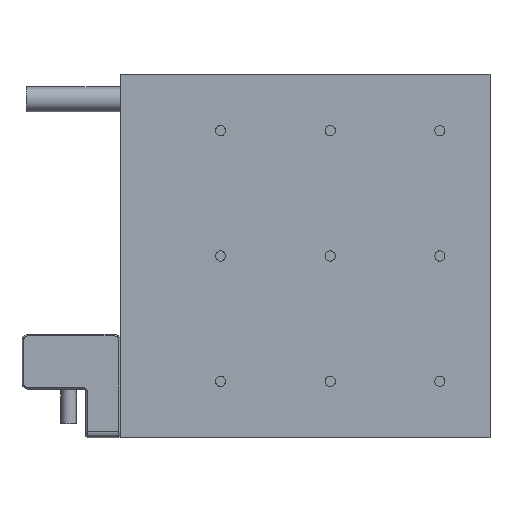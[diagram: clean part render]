
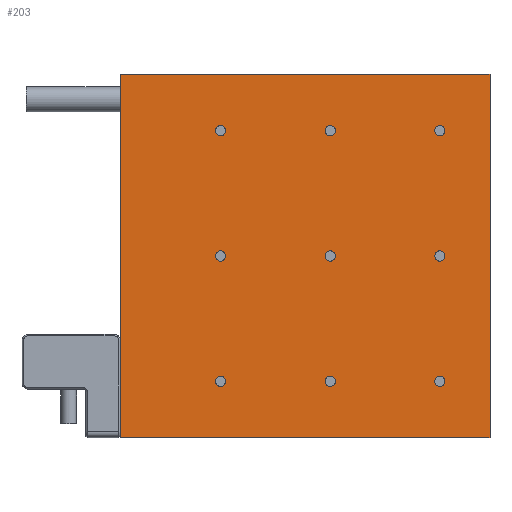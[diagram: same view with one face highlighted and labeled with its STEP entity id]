
A CAD part, front view. The second image highlights one B-rep face of the part: STEP entity #203.
In plain terms, the highlighted planar face has unit normal (0, -1, 0).
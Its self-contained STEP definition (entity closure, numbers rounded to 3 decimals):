
#203 = ADVANCED_FACE( '', ( #451, #452, #453, #454, #455, #456, #457, #458, #459, #460 ), #461, .T. );
#451 = FACE_BOUND( '', #748, .T. );
#452 = FACE_BOUND( '', #749, .T. );
#453 = FACE_BOUND( '', #750, .T. );
#454 = FACE_BOUND( '', #751, .T. );
#455 = FACE_BOUND( '', #752, .T. );
#456 = FACE_BOUND( '', #753, .T. );
#457 = FACE_BOUND( '', #754, .T. );
#458 = FACE_BOUND( '', #755, .T. );
#459 = FACE_BOUND( '', #756, .T. );
#460 = FACE_OUTER_BOUND( '', #757, .T. );
#461 = PLANE( '', #758 );
#748 = EDGE_LOOP( '', ( #1221 ) );
#749 = EDGE_LOOP( '', ( #1222 ) );
#750 = EDGE_LOOP( '', ( #1223 ) );
#751 = EDGE_LOOP( '', ( #1224 ) );
#752 = EDGE_LOOP( '', ( #1225 ) );
#753 = EDGE_LOOP( '', ( #1226 ) );
#754 = EDGE_LOOP( '', ( #1227 ) );
#755 = EDGE_LOOP( '', ( #1228 ) );
#756 = EDGE_LOOP( '', ( #1229 ) );
#757 = EDGE_LOOP( '', ( #1230, #1231, #1232, #1233 ) );
#758 = AXIS2_PLACEMENT_3D( '', #1234, #1235, #1236 );
#1221 = ORIENTED_EDGE( '', *, *, #1558, .T. );
#1222 = ORIENTED_EDGE( '', *, *, #1636, .T. );
#1223 = ORIENTED_EDGE( '', *, *, #1637, .T. );
#1224 = ORIENTED_EDGE( '', *, *, #1522, .T. );
#1225 = ORIENTED_EDGE( '', *, *, #1638, .T. );
#1226 = ORIENTED_EDGE( '', *, *, #1639, .T. );
#1227 = ORIENTED_EDGE( '', *, *, #1604, .T. );
#1228 = ORIENTED_EDGE( '', *, *, #1640, .T. );
#1229 = ORIENTED_EDGE( '', *, *, #1619, .T. );
#1230 = ORIENTED_EDGE( '', *, *, #1641, .T. );
#1231 = ORIENTED_EDGE( '', *, *, #1516, .T. );
#1232 = ORIENTED_EDGE( '', *, *, #1642, .T. );
#1233 = ORIENTED_EDGE( '', *, *, #1643, .T. );
#1234 = CARTESIAN_POINT( '', ( 0., 0., 0. ) );
#1235 = DIRECTION( '', ( 0., -1., 0. ) );
#1236 = DIRECTION( '', ( 0., 0., -1. ) );
#1516 = EDGE_CURVE( '', #1755, #1756, #1757, .T. );
#1522 = EDGE_CURVE( '', #1766, #1766, #1767, .T. );
#1558 = EDGE_CURVE( '', #1827, #1827, #1828, .T. );
#1604 = EDGE_CURVE( '', #1890, #1890, #1891, .T. );
#1619 = EDGE_CURVE( '', #1913, #1913, #1914, .T. );
#1636 = EDGE_CURVE( '', #1936, #1936, #1937, .T. );
#1637 = EDGE_CURVE( '', #1938, #1938, #1939, .T. );
#1638 = EDGE_CURVE( '', #1940, #1940, #1941, .T. );
#1639 = EDGE_CURVE( '', #1942, #1942, #1943, .T. );
#1640 = EDGE_CURVE( '', #1944, #1944, #1945, .T. );
#1641 = EDGE_CURVE( '', #1946, #1755, #1947, .T. );
#1642 = EDGE_CURVE( '', #1756, #1948, #1949, .T. );
#1643 = EDGE_CURVE( '', #1948, #1946, #1950, .T. );
#1755 = VERTEX_POINT( '', #2085 );
#1756 = VERTEX_POINT( '', #2086 );
#1757 = LINE( '', #2087, #2088 );
#1766 = VERTEX_POINT( '', #2100 );
#1767 = CIRCLE( '', #2101, 1.621 );
#1827 = VERTEX_POINT( '', #2173 );
#1828 = CIRCLE( '', #2174, 1.621 );
#1890 = VERTEX_POINT( '', #2248 );
#1891 = CIRCLE( '', #2249, 1.621 );
#1913 = VERTEX_POINT( '', #2276 );
#1914 = CIRCLE( '', #2277, 1.621 );
#1936 = VERTEX_POINT( '', #2305 );
#1937 = CIRCLE( '', #2306, 1.621 );
#1938 = VERTEX_POINT( '', #2307 );
#1939 = CIRCLE( '', #2308, 1.621 );
#1940 = VERTEX_POINT( '', #2309 );
#1941 = CIRCLE( '', #2310, 1.621 );
#1942 = VERTEX_POINT( '', #2311 );
#1943 = CIRCLE( '', #2312, 1.621 );
#1944 = VERTEX_POINT( '', #2313 );
#1945 = CIRCLE( '', #2314, 1.621 );
#1946 = VERTEX_POINT( '', #2315 );
#1947 = LINE( '', #2316, #2317 );
#1948 = VERTEX_POINT( '', #2318 );
#1949 = LINE( '', #2319, #2320 );
#1950 = LINE( '', #2321, #2322 );
#2085 = CARTESIAN_POINT( '', ( 59., 0., -58. ) );
#2086 = CARTESIAN_POINT( '', ( 59., 0., 58. ) );
#2087 = CARTESIAN_POINT( '', ( 59., 0., -71.18 ) );
#2088 = VECTOR( '', #2438, 1000. );
#2100 = CARTESIAN_POINT( '', ( 8., 0., -41.621 ) );
#2101 = AXIS2_PLACEMENT_3D( '', #2445, #2446, #2447 );
#2173 = CARTESIAN_POINT( '', ( 43., 0., -41.621 ) );
#2174 = AXIS2_PLACEMENT_3D( '', #2499, #2500, #2501 );
#2248 = CARTESIAN_POINT( '', ( -27., 0., -41.621 ) );
#2249 = AXIS2_PLACEMENT_3D( '', #2562, #2563, #2564 );
#2276 = CARTESIAN_POINT( '', ( -27., 0., 38.379 ) );
#2277 = AXIS2_PLACEMENT_3D( '', #2582, #2583, #2584 );
#2305 = CARTESIAN_POINT( '', ( 43., 0., -1.621 ) );
#2306 = AXIS2_PLACEMENT_3D( '', #2603, #2604, #2605 );
#2307 = CARTESIAN_POINT( '', ( 43., 0., 38.379 ) );
#2308 = AXIS2_PLACEMENT_3D( '', #2606, #2607, #2608 );
#2309 = CARTESIAN_POINT( '', ( 8., 0., -1.621 ) );
#2310 = AXIS2_PLACEMENT_3D( '', #2609, #2610, #2611 );
#2311 = CARTESIAN_POINT( '', ( 8., 0., 38.379 ) );
#2312 = AXIS2_PLACEMENT_3D( '', #2612, #2613, #2614 );
#2313 = CARTESIAN_POINT( '', ( -27., 0., -1.621 ) );
#2314 = AXIS2_PLACEMENT_3D( '', #2615, #2616, #2617 );
#2315 = CARTESIAN_POINT( '', ( -59., 0., -58. ) );
#2316 = CARTESIAN_POINT( '', ( -59., 0., -58. ) );
#2317 = VECTOR( '', #2618, 1000. );
#2318 = CARTESIAN_POINT( '', ( -59., 0., 58. ) );
#2319 = CARTESIAN_POINT( '', ( 59., 0., 58. ) );
#2320 = VECTOR( '', #2619, 1000. );
#2321 = CARTESIAN_POINT( '', ( -59., 0., 58. ) );
#2322 = VECTOR( '', #2620, 1000. );
#2438 = DIRECTION( '', ( 0., 0., 1. ) );
#2445 = CARTESIAN_POINT( '', ( 8., 0., -40. ) );
#2446 = DIRECTION( '', ( 0., 1., 0. ) );
#2447 = DIRECTION( '', ( 0., 0., -1. ) );
#2499 = CARTESIAN_POINT( '', ( 43., 0., -40. ) );
#2500 = DIRECTION( '', ( 0., 1., 0. ) );
#2501 = DIRECTION( '', ( 0., 0., -1. ) );
#2562 = CARTESIAN_POINT( '', ( -27., 0., -40. ) );
#2563 = DIRECTION( '', ( 0., 1., 0. ) );
#2564 = DIRECTION( '', ( 0., 0., -1. ) );
#2582 = CARTESIAN_POINT( '', ( -27., 0., 40. ) );
#2583 = DIRECTION( '', ( 0., 1., 0. ) );
#2584 = DIRECTION( '', ( 0., 0., -1. ) );
#2603 = CARTESIAN_POINT( '', ( 43., 0., 0. ) );
#2604 = DIRECTION( '', ( 0., 1., 0. ) );
#2605 = DIRECTION( '', ( 0., 0., -1. ) );
#2606 = CARTESIAN_POINT( '', ( 43., 0., 40. ) );
#2607 = DIRECTION( '', ( 0., 1., 0. ) );
#2608 = DIRECTION( '', ( 0., 0., -1. ) );
#2609 = CARTESIAN_POINT( '', ( 8., 0., 0. ) );
#2610 = DIRECTION( '', ( 0., 1., 0. ) );
#2611 = DIRECTION( '', ( 0., 0., -1. ) );
#2612 = CARTESIAN_POINT( '', ( 8., 0., 40. ) );
#2613 = DIRECTION( '', ( 0., 1., 0. ) );
#2614 = DIRECTION( '', ( 0., 0., -1. ) );
#2615 = CARTESIAN_POINT( '', ( -27., 0., 0. ) );
#2616 = DIRECTION( '', ( 0., 1., 0. ) );
#2617 = DIRECTION( '', ( 0., 0., -1. ) );
#2618 = DIRECTION( '', ( 1., 0., 0. ) );
#2619 = DIRECTION( '', ( -1., 0., 0. ) );
#2620 = DIRECTION( '', ( 0., 0., -1. ) );
